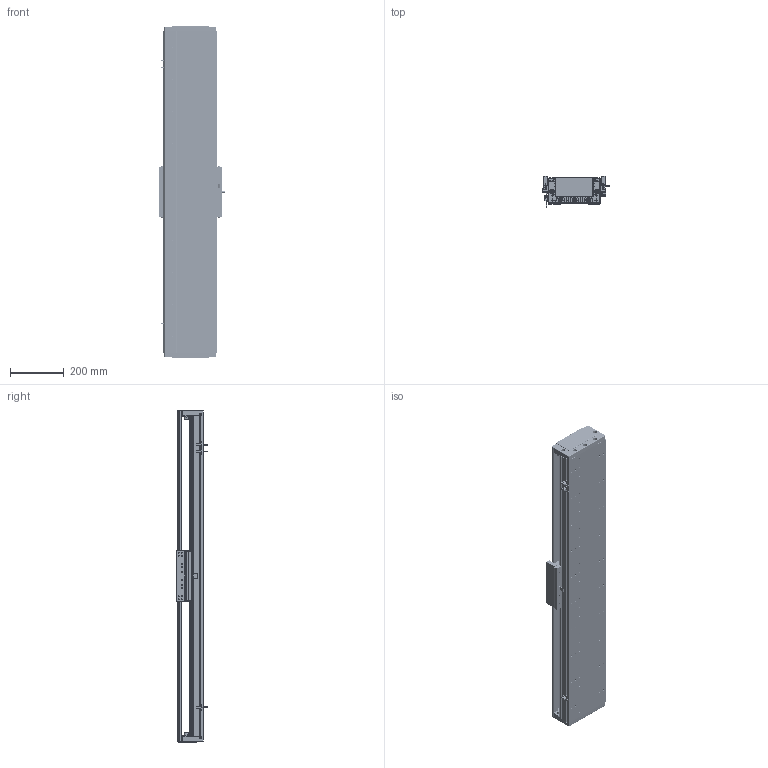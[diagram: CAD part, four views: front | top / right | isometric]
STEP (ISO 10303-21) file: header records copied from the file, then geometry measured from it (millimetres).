
FILE_DESCRIPTION (( 'STEP AP203' ), '1' );
FILE_NAME ('DA-C195-C2-T960-C010-0.2 眻盄萇儂.STEP', '2025-08-15T01:03:42', ( '' ), ( '' ), 'SwSTEP 2.0', 'SolidWorks 2019', '' );
FILE_SCHEMA (( 'CONFIG_CONTROL_DESIGN' ));
Length unit declared in the file: millimetre
Products named in the file (12): MS200 棠掑喜S315-T240; 葩璃 DA95-GT-T-00; IU-CU195-L-00 菁釱(L1200); DA95-HXJ-00 遣喳砎蝶; DA-C195-C2-T960-C010-0.2 眻盄萇儂; PM-T45ㄗ侂狟ㄘ; DA195-DG-H-00  端盖（压铸镂空版）; IU-CU195-L 菁釱絳寢; 66156-0001-005-00 光电感应片(默认); 66156-0001-003-00 裔啣; CU195-C2賑輸-俋楷; LMT黍杅芛
Assembly tree (20 placements, depth 3):
  DA-C195-C2-T960-C010-0.2 眻盄萇儂
    IU-CU195-L 菁釱絳寢
      IU-CU195-L-00 菁釱(L1200)
      葩璃 DA95-GT-T-00  x4
    LMT黍杅芛
    MS200 棠掑喜S315-T240
    PM-T45ㄗ侂狟ㄘ  x3
    66156-0001-005-00 光电感应片(默认)
    DA195-DG-H-00  端盖（压铸镂空版）  x2
    DA95-HXJ-00 遣喳砎蝶  x4
    66156-0001-003-00 裔啣
    CU195-C2賑輸-俋楷
Bounding box: 248 x 115.6 x 1240 mm (x, y, z)
Volume: 8648824.3 mm3; surface area: 2473190.4 mm2
Topology: 58 solids, 130 shells, 5263 faces, 13460 edges, 8185 vertices
Faces by surface type: cylinder 2277, plane 1636, bspline 710, cone 560, torus 44, sphere 36
Entity records: 145753 total; most frequent: CARTESIAN_POINT 45399, ORIENTED_EDGE 20974, DIRECTION 20144, EDGE_CURVE 10487, AXIS2_PLACEMENT_3D 7499, VERTEX_POINT 6615, LINE 5146, VECTOR 5146
